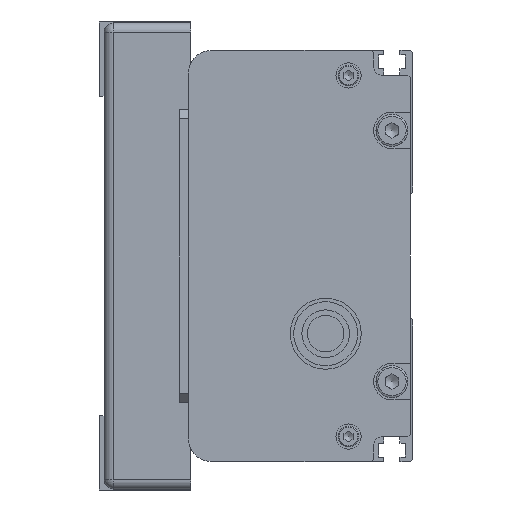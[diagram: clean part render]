
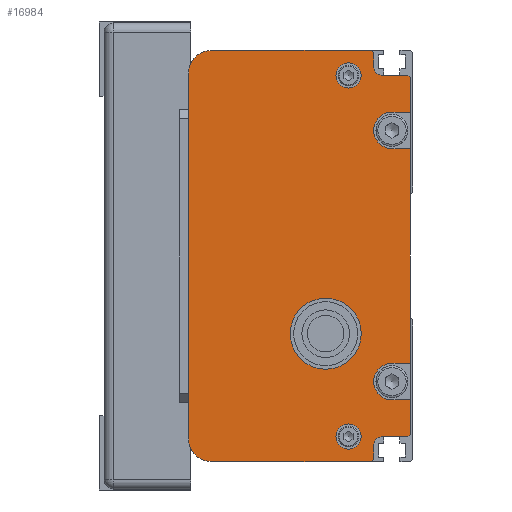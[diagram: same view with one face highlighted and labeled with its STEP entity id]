
A CAD part, left-side view. The second image highlights one B-rep face of the part: STEP entity #16984.
In plain terms, the highlighted planar face has unit normal (-1, 0, 0) as drawn and (0, 0, -1) by its records, which use the part's own axes.
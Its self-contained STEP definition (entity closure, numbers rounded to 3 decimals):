
#1080=FACE_BOUND('',#2490,.T.);
#1081=FACE_BOUND('',#2491,.T.);
#1082=FACE_BOUND('',#2492,.T.);
#1416=FACE_OUTER_BOUND('',#2489,.T.);
#2489=EDGE_LOOP('',(#11801,#11802,#11803,#11804,#11805,#11806,#11807,#11808,
#11809,#11810,#11811,#11812,#11813,#11814,#11815,#11816,#11817,#11818,#11819,
#11820,#11821,#11822,#11823,#11824));
#2490=EDGE_LOOP('',(#11825));
#2491=EDGE_LOOP('',(#11826));
#2492=EDGE_LOOP('',(#11827));
#3783=LINE('',#24613,#5281);
#3809=LINE('',#24680,#5307);
#3811=LINE('',#24685,#5309);
#3812=LINE('',#24687,#5310);
#3813=LINE('',#24690,#5311);
#3814=LINE('',#24692,#5312);
#3815=LINE('',#24694,#5313);
#3816=LINE('',#24698,#5314);
#3817=LINE('',#24700,#5315);
#3818=LINE('',#24702,#5316);
#3819=LINE('',#24706,#5317);
#3820=LINE('',#24708,#5318);
#3821=LINE('',#24710,#5319);
#3822=LINE('',#24712,#5320);
#3823=LINE('',#24716,#5321);
#3824=LINE('',#24718,#5322);
#3825=LINE('',#24719,#5323);
#3826=LINE('',#24720,#5324);
#5281=VECTOR('',#19996,80.);
#5307=VECTOR('',#20048,0.707);
#5309=VECTOR('',#20052,0.707);
#5310=VECTOR('',#20053,3.);
#5311=VECTOR('',#20056,5.5);
#5312=VECTOR('',#20057,7.5);
#5313=VECTOR('',#20058,4.);
#5314=VECTOR('',#20061,4.);
#5315=VECTOR('',#20062,47.);
#5316=VECTOR('',#20063,4.);
#5317=VECTOR('',#20066,4.);
#5318=VECTOR('',#20067,7.5);
#5319=VECTOR('',#20068,0.707);
#5320=VECTOR('',#20069,5.5);
#5321=VECTOR('',#20072,3.);
#5322=VECTOR('',#20073,0.707);
#5323=VECTOR('',#20074,35.);
#5324=VECTOR('',#20075,35.);
#6670=CIRCLE('',#18142,5.);
#6673=CIRCLE('',#18149,5.);
#6675=CIRCLE('',#18155,2.);
#6676=CIRCLE('',#18156,4.);
#6677=CIRCLE('',#18157,4.);
#6678=CIRCLE('',#18158,2.);
#6679=CIRCLE('',#18159,7.769);
#6680=CIRCLE('',#18160,2.75);
#6681=CIRCLE('',#18161,2.75);
#7277=VERTEX_POINT('',#24610);
#7278=VERTEX_POINT('',#24612);
#7279=VERTEX_POINT('',#24616);
#7282=VERTEX_POINT('',#24627);
#7305=VERTEX_POINT('',#24677);
#7306=VERTEX_POINT('',#24679);
#7307=VERTEX_POINT('',#24683);
#7308=VERTEX_POINT('',#24684);
#7309=VERTEX_POINT('',#24686);
#7310=VERTEX_POINT('',#24688);
#7311=VERTEX_POINT('',#24691);
#7312=VERTEX_POINT('',#24693);
#7313=VERTEX_POINT('',#24695);
#7314=VERTEX_POINT('',#24697);
#7315=VERTEX_POINT('',#24699);
#7316=VERTEX_POINT('',#24701);
#7317=VERTEX_POINT('',#24703);
#7318=VERTEX_POINT('',#24705);
#7319=VERTEX_POINT('',#24707);
#7320=VERTEX_POINT('',#24709);
#7321=VERTEX_POINT('',#24711);
#7322=VERTEX_POINT('',#24713);
#7323=VERTEX_POINT('',#24715);
#7324=VERTEX_POINT('',#24717);
#7325=VERTEX_POINT('',#24721);
#7326=VERTEX_POINT('',#24723);
#7327=VERTEX_POINT('',#24725);
#9063=EDGE_CURVE('',#7277,#7278,#3783,.T.);
#9065=EDGE_CURVE('',#7278,#7279,#6670,.T.);
#9070=EDGE_CURVE('',#7282,#7277,#6673,.T.);
#9094=EDGE_CURVE('',#7305,#7306,#3809,.T.);
#9096=EDGE_CURVE('',#7307,#7308,#3811,.T.);
#9097=EDGE_CURVE('',#7307,#7309,#3812,.T.);
#9098=EDGE_CURVE('',#7309,#7310,#6675,.T.);
#9099=EDGE_CURVE('',#7310,#7306,#3813,.T.);
#9100=EDGE_CURVE('',#7311,#7305,#3814,.T.);
#9101=EDGE_CURVE('',#7311,#7312,#3815,.T.);
#9102=EDGE_CURVE('',#7312,#7313,#6676,.T.);
#9103=EDGE_CURVE('',#7313,#7314,#3816,.T.);
#9104=EDGE_CURVE('',#7315,#7314,#3817,.T.);
#9105=EDGE_CURVE('',#7315,#7316,#3818,.T.);
#9106=EDGE_CURVE('',#7316,#7317,#6677,.T.);
#9107=EDGE_CURVE('',#7317,#7318,#3819,.T.);
#9108=EDGE_CURVE('',#7319,#7318,#3820,.T.);
#9109=EDGE_CURVE('',#7320,#7319,#3821,.T.);
#9110=EDGE_CURVE('',#7320,#7321,#3822,.T.);
#9111=EDGE_CURVE('',#7321,#7322,#6678,.T.);
#9112=EDGE_CURVE('',#7322,#7323,#3823,.T.);
#9113=EDGE_CURVE('',#7324,#7323,#3824,.T.);
#9114=EDGE_CURVE('',#7279,#7324,#3825,.T.);
#9115=EDGE_CURVE('',#7308,#7282,#3826,.T.);
#9116=EDGE_CURVE('',#7325,#7325,#6679,.T.);
#9117=EDGE_CURVE('',#7326,#7326,#6680,.T.);
#9118=EDGE_CURVE('',#7327,#7327,#6681,.T.);
#11801=ORIENTED_EDGE('',*,*,#9096,.F.);
#11802=ORIENTED_EDGE('',*,*,#9097,.T.);
#11803=ORIENTED_EDGE('',*,*,#9098,.T.);
#11804=ORIENTED_EDGE('',*,*,#9099,.T.);
#11805=ORIENTED_EDGE('',*,*,#9094,.F.);
#11806=ORIENTED_EDGE('',*,*,#9100,.F.);
#11807=ORIENTED_EDGE('',*,*,#9101,.T.);
#11808=ORIENTED_EDGE('',*,*,#9102,.T.);
#11809=ORIENTED_EDGE('',*,*,#9103,.T.);
#11810=ORIENTED_EDGE('',*,*,#9104,.F.);
#11811=ORIENTED_EDGE('',*,*,#9105,.T.);
#11812=ORIENTED_EDGE('',*,*,#9106,.T.);
#11813=ORIENTED_EDGE('',*,*,#9107,.T.);
#11814=ORIENTED_EDGE('',*,*,#9108,.F.);
#11815=ORIENTED_EDGE('',*,*,#9109,.F.);
#11816=ORIENTED_EDGE('',*,*,#9110,.T.);
#11817=ORIENTED_EDGE('',*,*,#9111,.T.);
#11818=ORIENTED_EDGE('',*,*,#9112,.T.);
#11819=ORIENTED_EDGE('',*,*,#9113,.F.);
#11820=ORIENTED_EDGE('',*,*,#9114,.F.);
#11821=ORIENTED_EDGE('',*,*,#9065,.F.);
#11822=ORIENTED_EDGE('',*,*,#9063,.F.);
#11823=ORIENTED_EDGE('',*,*,#9070,.F.);
#11824=ORIENTED_EDGE('',*,*,#9115,.F.);
#11825=ORIENTED_EDGE('',*,*,#9116,.T.);
#11826=ORIENTED_EDGE('',*,*,#9117,.T.);
#11827=ORIENTED_EDGE('',*,*,#9118,.T.);
#16372=PLANE('',#18154);
#16984=ADVANCED_FACE('',(#1416,#1080,#1081,#1082),#16372,.F.);
#18142=AXIS2_PLACEMENT_3D('',#24617,#20000,#20001);
#18149=AXIS2_PLACEMENT_3D('',#24629,#20016,#20017);
#18154=AXIS2_PLACEMENT_3D('',#24682,#20050,#20051);
#18155=AXIS2_PLACEMENT_3D('',#24689,#20054,#20055);
#18156=AXIS2_PLACEMENT_3D('',#24696,#20059,#20060);
#18157=AXIS2_PLACEMENT_3D('',#24704,#20064,#20065);
#18158=AXIS2_PLACEMENT_3D('',#24714,#20070,#20071);
#18159=AXIS2_PLACEMENT_3D('',#24722,#20076,#20077);
#18160=AXIS2_PLACEMENT_3D('',#24724,#20078,#20079);
#18161=AXIS2_PLACEMENT_3D('',#24726,#20080,#20081);
#19996=DIRECTION('',(-1.,0.,0.));
#20000=DIRECTION('center_axis',(0.,0.,1.));
#20001=DIRECTION('ref_axis',(0.,1.,0.));
#20016=DIRECTION('center_axis',(0.,0.,1.));
#20017=DIRECTION('ref_axis',(1.,0.,0.));
#20048=DIRECTION('',(0.707,0.707,0.));
#20050=DIRECTION('center_axis',(0.,0.,1.));
#20051=DIRECTION('ref_axis',(1.,0.,0.));
#20052=DIRECTION('',(0.707,0.707,0.));
#20053=DIRECTION('',(-1.,0.,0.));
#20054=DIRECTION('center_axis',(0.,0.,1.));
#20055=DIRECTION('ref_axis',(0.,1.,0.));
#20056=DIRECTION('',(0.,-1.,0.));
#20057=DIRECTION('',(1.,0.,0.));
#20058=DIRECTION('',(0.,1.,0.));
#20059=DIRECTION('center_axis',(0.,0.,1.));
#20060=DIRECTION('ref_axis',(-1.,0.,0.));
#20061=DIRECTION('',(0.,-1.,0.));
#20062=DIRECTION('',(1.,0.,0.));
#20063=DIRECTION('',(0.,1.,0.));
#20064=DIRECTION('center_axis',(0.,0.,1.));
#20065=DIRECTION('ref_axis',(-1.,0.,0.));
#20066=DIRECTION('',(0.,-1.,0.));
#20067=DIRECTION('',(1.,0.,0.));
#20068=DIRECTION('',(0.707,-0.707,0.));
#20069=DIRECTION('',(0.,1.,0.));
#20070=DIRECTION('center_axis',(0.,0.,1.));
#20071=DIRECTION('ref_axis',(-1.,0.,0.));
#20072=DIRECTION('',(-1.,0.,0.));
#20073=DIRECTION('',(0.707,-0.707,0.));
#20074=DIRECTION('',(0.,-1.,0.));
#20075=DIRECTION('',(0.,1.,0.));
#20076=DIRECTION('center_axis',(0.,0.,1.));
#20077=DIRECTION('ref_axis',(0.766,-0.643,0.));
#20078=DIRECTION('center_axis',(0.,0.,1.));
#20079=DIRECTION('ref_axis',(-1.,0.,0.));
#20080=DIRECTION('center_axis',(0.,0.,1.));
#20081=DIRECTION('ref_axis',(-1.,0.,0.));
#24610=CARTESIAN_POINT('',(37.988,51.846,-597.249));
#24612=CARTESIAN_POINT('',(-42.012,51.846,-597.249));
#24613=CARTESIAN_POINT('',(37.988,51.846,-597.249));
#24616=CARTESIAN_POINT('',(-47.012,46.846,-597.249));
#24617=CARTESIAN_POINT('Origin',(-42.012,46.846,-597.249));
#24627=CARTESIAN_POINT('',(42.988,46.846,-597.249));
#24629=CARTESIAN_POINT('Origin',(37.988,46.846,-597.249));
#24677=CARTESIAN_POINT('',(36.988,3.346,-597.249));
#24679=CARTESIAN_POINT('',(37.488,3.846,-597.249));
#24680=CARTESIAN_POINT('',(36.988,3.346,-597.249));
#24682=CARTESIAN_POINT('Origin',(-2.012,27.249,-597.249));
#24683=CARTESIAN_POINT('',(42.488,11.346,-597.249));
#24684=CARTESIAN_POINT('',(42.988,11.846,-597.249));
#24685=CARTESIAN_POINT('',(42.488,11.346,-597.249));
#24686=CARTESIAN_POINT('',(39.488,11.346,-597.249));
#24687=CARTESIAN_POINT('',(42.488,11.346,-597.249));
#24688=CARTESIAN_POINT('',(37.488,9.346,-597.249));
#24689=CARTESIAN_POINT('Origin',(39.488,9.346,-597.249));
#24690=CARTESIAN_POINT('',(37.488,9.346,-597.249));
#24691=CARTESIAN_POINT('',(29.488,3.346,-597.249));
#24692=CARTESIAN_POINT('',(29.488,3.346,-597.249));
#24693=CARTESIAN_POINT('',(29.488,7.346,-597.249));
#24694=CARTESIAN_POINT('',(29.488,3.346,-597.249));
#24695=CARTESIAN_POINT('',(21.488,7.346,-597.249));
#24696=CARTESIAN_POINT('Origin',(25.488,7.346,-597.249));
#24697=CARTESIAN_POINT('',(21.488,3.346,-597.249));
#24698=CARTESIAN_POINT('',(21.488,7.346,-597.249));
#24699=CARTESIAN_POINT('',(-25.512,3.346,-597.249));
#24700=CARTESIAN_POINT('',(-25.512,3.346,-597.249));
#24701=CARTESIAN_POINT('',(-25.512,7.346,-597.249));
#24702=CARTESIAN_POINT('',(-25.512,3.346,-597.249));
#24703=CARTESIAN_POINT('',(-33.512,7.346,-597.249));
#24704=CARTESIAN_POINT('Origin',(-29.512,7.346,-597.249));
#24705=CARTESIAN_POINT('',(-33.512,3.346,-597.249));
#24706=CARTESIAN_POINT('',(-33.512,7.346,-597.249));
#24707=CARTESIAN_POINT('',(-41.012,3.346,-597.249));
#24708=CARTESIAN_POINT('',(-41.012,3.346,-597.249));
#24709=CARTESIAN_POINT('',(-41.512,3.846,-597.249));
#24710=CARTESIAN_POINT('',(-41.512,3.846,-597.249));
#24711=CARTESIAN_POINT('',(-41.512,9.346,-597.249));
#24712=CARTESIAN_POINT('',(-41.512,3.846,-597.249));
#24713=CARTESIAN_POINT('',(-43.512,11.346,-597.249));
#24714=CARTESIAN_POINT('Origin',(-43.512,9.346,-597.249));
#24715=CARTESIAN_POINT('',(-46.512,11.346,-597.249));
#24716=CARTESIAN_POINT('',(-43.512,11.346,-597.249));
#24717=CARTESIAN_POINT('',(-47.012,11.846,-597.249));
#24718=CARTESIAN_POINT('',(-47.012,11.846,-597.249));
#24719=CARTESIAN_POINT('',(-47.012,46.846,-597.249));
#24720=CARTESIAN_POINT('',(42.988,11.846,-597.249));
#24721=CARTESIAN_POINT('',(20.939,16.853,-597.249));
#24722=CARTESIAN_POINT('Origin',(14.988,21.846,-597.249));
#24723=CARTESIAN_POINT('',(34.738,16.846,-597.249));
#24724=CARTESIAN_POINT('Origin',(37.488,16.846,-597.249));
#24725=CARTESIAN_POINT('',(-44.262,16.846,-597.249));
#24726=CARTESIAN_POINT('Origin',(-41.512,16.846,-597.249));
